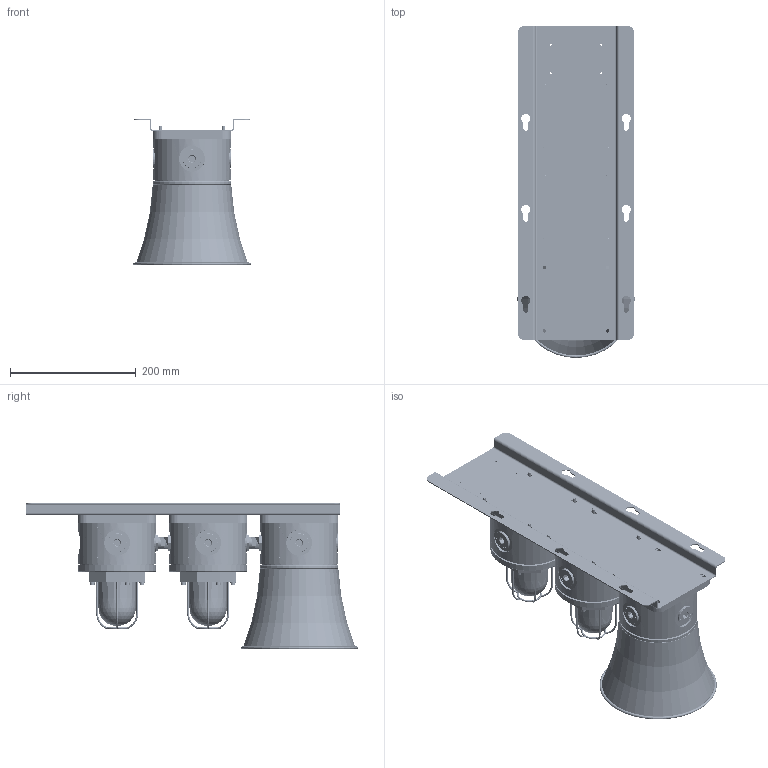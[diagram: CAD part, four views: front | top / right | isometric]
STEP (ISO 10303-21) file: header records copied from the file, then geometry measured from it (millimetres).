
FILE_DESCRIPTION((''),'2;1');
FILE_NAME('0-SB125-TYP3_ASM','2015-12-21T',('Administrator'),(''),'PRO/ENGINEER BY PARAMETRIC TECHNOLOGY CORPORATION, 2008090','PRO/ENGINEER BY PARAMETRIC TECHNOLOGY CORPORATION, 2008090','');
FILE_SCHEMA(('CONFIG_CONTROL_DESIGN'));
Length unit declared in the file: millimetre
Products named in the file (47): 50020110263; 55060110101; 55050110103; 50050180237; 50050140504; 50050150505; CG; HS; 50050150506; MQ; 50050150501; 55050110108; 50050110507; 0-55050100620_ASM; 50050110106; 50050110105; M4-10; 50050110104; 50050110216; 55100110920; 50070150601; 50070120605; PCB-SD125-W_ASM; 0-SD125-SOUNDER-W_ASM; 55060110102; 50060110110; 50060110109; 55060170107; 50060111202; 55060110108; 50060111201; GTS5; 50000010301-M5; 50060100612; 50060120205; TERMINAL-WDML; TERMIAL-BASE_ASM; 0-BC125_ASM; 55020110203; LINE-9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
Assembly tree (83 placements, depth 4):
  0-SB125-TYP3_ASM
    50020110263
    0-SD125-SOUNDER-W_ASM
      55060110101
      55050110103
      50050180237
      0-55050100620_ASM
        50050140504
        50050150505
        CG
        HS
        50050150506
        MQ
        50050150501
        55050110108
        50050110507
      50050110106
      50050110105
      M4-10  x3
      50050110104
      50050110216  x4
      55100110920  x3
      PCB-SD125-W_ASM
        50070150601
        50070120605
    0-BC125_ASM  x2
      55060110101
      55060110102
      50060110110
      50060110109
      55060170107
      50060111202
      55060110108
      50060111201
      GTS5
      50000010301-M5
      M4-10
      50050180237
      50060100612
      TERMIAL-BASE_ASM
        50060120205
        TERMINAL-WDML
      55100110920
    0-CT20_ASM  x2
      55020110203
      LINE-9
      51872010006
      50020110207
    50000010101
    50020110229
    M5-15-ALL  x8
Bounding box: 187 x 528.5 x 233.8 mm (x, y, z)
Volume: 2524070.6 mm3; surface area: 1378275.1 mm2
Topology: 134 solids, 281 shells, 16738 faces, 45054 edges, 29510 vertices
Faces by surface type: plane 12490, cylinder 2304, cone 806, bspline 534, sphere 306, torus 298
Entity records: 163313 total; most frequent: CARTESIAN_POINT 52469, ORIENTED_EDGE 23130, DIRECTION 21981, EDGE_CURVE 11675, VECTOR 7829, LINE 7829, VERTEX_POINT 7593, AXIS2_PLACEMENT_3D 7076
